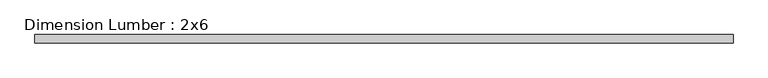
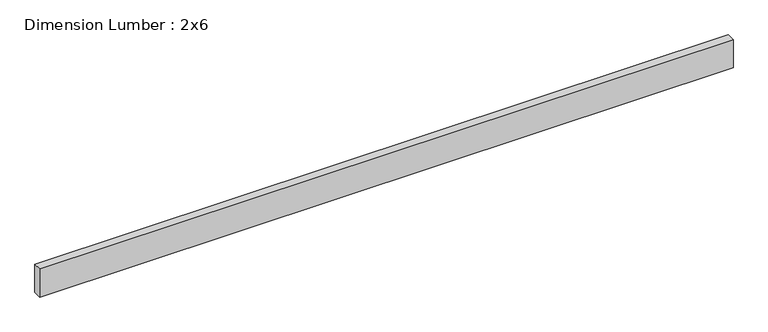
"""IFC4 building model written with IfcOpenShell, lengths in millimetres: beam geometry, Dimension Lumber : 2x6."""

from ifc_helpers import new_model, si_unit, frame, origin, place, context, project, spatial, polyline, outline, extrude, source, transform, mapped, element, save


def dimension_lumber_2x6_d05b0d3b(model_context):
    return source(origin(), model_context, "Body", "SweptSolid", [
        extrude(outline(polyline([(1619.25, 19.05), (1619.25, -19.05), (-1619.25, -19.05), (-1619.25, 19.05), (1619.25, 19.05)])), frame((0.0, 0.0, -69.85), z_axis=(0.0, 0.0, 1.0), x_axis=(1.0, 0.0, 0.0)), (0.0, 0.0, 1.0), 139.7),
    ])


if __name__ == "__main__":
    model = new_model("IFC4")
    model_context = context("Model", 3, world=origin())
    ifc_project = project(units=[si_unit("LENGTHUNIT", "METRE", prefix="MILLI")], contexts=[model_context])
    site = spatial("IfcSite", under=ifc_project)
    building = spatial("IfcBuilding", under=site)
    placement = place(None, origin())
    dimension_lumber_2x6_shape = dimension_lumber_2x6_d05b0d3b(model_context)
    element("IfcBeam", 1, ObjectType="Dimension Lumber : 2x6", at=placement, inside=building, context=model_context, shape_type="MappedRepresentation", body=[
        mapped(dimension_lumber_2x6_shape, transform((0.0, 0.0, 0.0), x_axis=(1.0, 0.0, 0.0), y_axis=(0.0, 1.0, 0.0), z_axis=(0.0, 0.0, 1.0))),
    ])
    save(model, "model.ifc")
